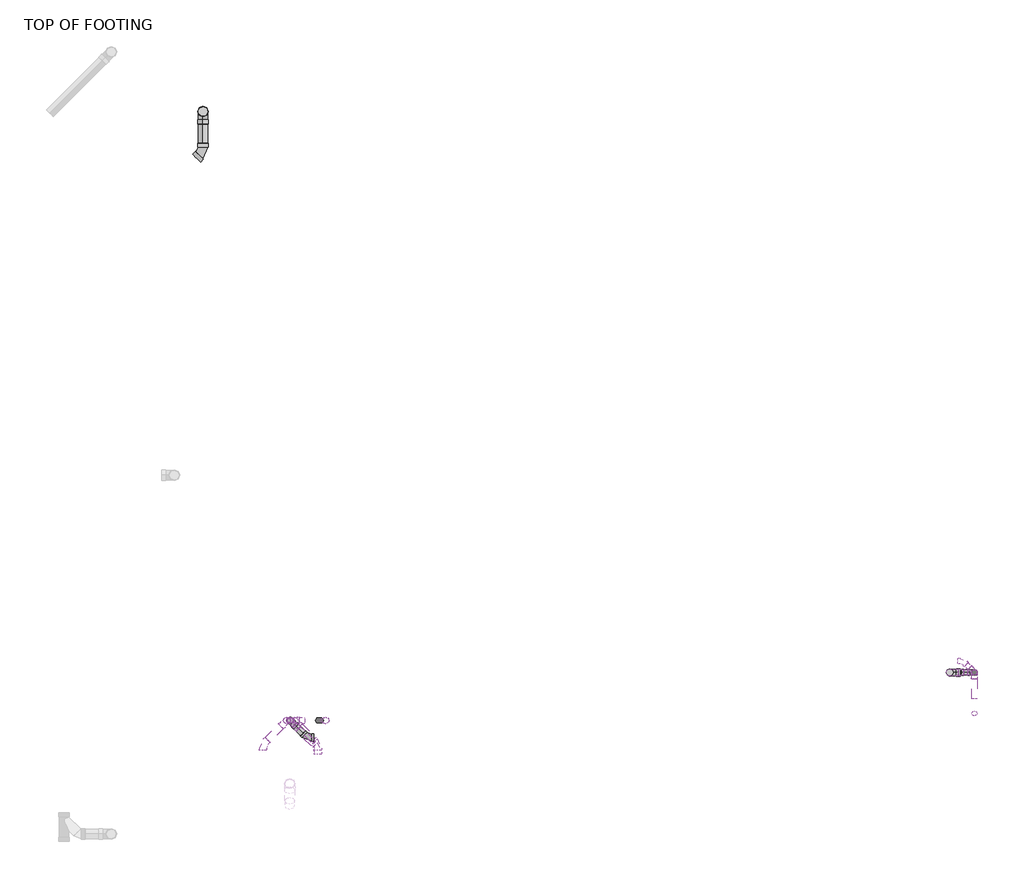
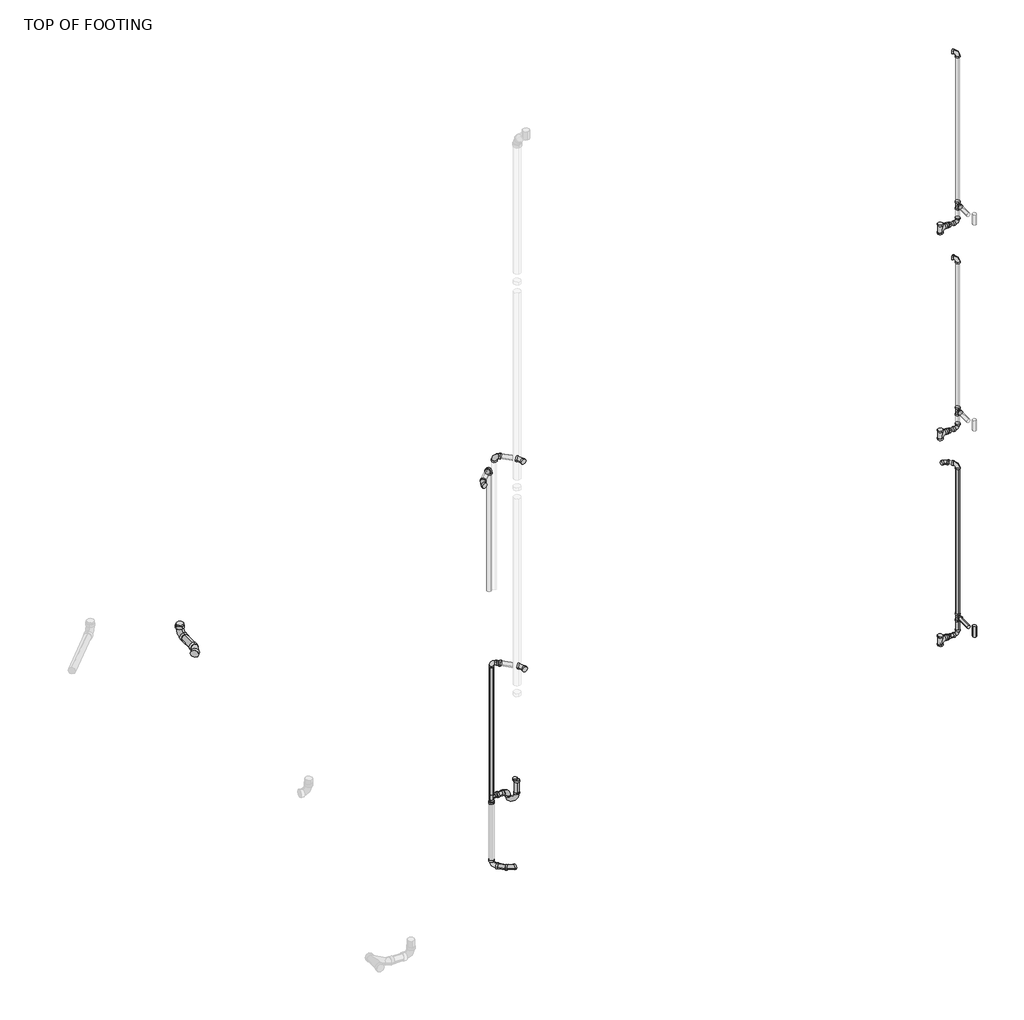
# One storey, part 8 of 8: 32 pipe fittings, 26 pipe segments.
"""IFC4 building model written with IfcOpenShell, lengths in millimetres."""

from ifc_helpers import new_model, si_unit, point, frame, frame_2d, origin, place, context, project, spatial, circle_curve, trimmed, segment, composite_curve, outline, extrude, transform, mapped, element, save
from components import bend_pvc_sch_40_dwv_standard_738aab8b, bend_pvc_sch_40_dwv_standard_9377f51f, bend_pvc_sch_40_dwv_standard_e59a9f3a, bend_pvc_sch_40_dwv_standard_e6a60135, bend_pvc_sch_40_dwv_standard_f2f5988a, bend_pvc_sch_40_dwv_standard_ffbada00, bend_pvc_sch_40_dwv_standard_1eaeee76, bend_pvc_sch_40_dwv_standard_49f8c181, bend_pvc_sch_40_dwv_standard_f64d1520, bend_pvc_sch_40_dwv_standard_e19a0162, bend_pvc_sch_40_dwv_standard_6bc66ede, pipe_tee_copper_k_25e69e3c, reducer_pvc_sch_40_dwv_standard_b23fa098, reducer_pvc_sch_40_dwv_standard_f288b410, reducer_pvc_sch_40_dwv_standard_b2b0afcc, reducer_pvc_sch_40_dwv_standard_230e9924, reducer_pvc_sch_40_dwv_standard_e5aaf6e1, standard_73d07651, tee_sanitary_pvc_sch_40_dwv_standard_ad422280, tee_sanitary_pvc_sch_40_dwv_standard_7b7ecc20

model = new_model("IFC4")

# Units and contexts
model_context = context("Model", 3, world=origin())
ifc_project = project(units=[si_unit("LENGTHUNIT", "METRE", prefix="MILLI")], contexts=[model_context])

# Site, building, storey
site = spatial("IfcSite", under=ifc_project)
building = spatial("IfcBuilding", under=site)
storey = spatial("IfcBuildingStorey", under=building, Name="TOP OF FOOTING", Elevation=-762.0)

# Pipe fittings
placement = place(None, origin())
bend_pvc_sch_40_dwv_standard_shape = bend_pvc_sch_40_dwv_standard_738aab8b(model_context)
element("IfcPipeFitting", 1, ObjectType="Bend - PVC - Sch 40 - DWV : Standard", at=placement, inside=storey, context=model_context, shape_type="MappedRepresentation", body=[
    mapped(bend_pvc_sch_40_dwv_standard_shape, transform((23291.1209875, 8911.2671909, 337.3617935), x_axis=(1.0, 0.0, 0.0), y_axis=(0.0, 0.0, 1.0), z_axis=(0.0, -1.0, 0.0))),
])
element("IfcPipeFitting", 2, ObjectType="Bend - PVC - Sch 40 - DWV : Standard", at=placement, inside=storey, context=model_context, shape_type="MappedRepresentation", body=[
    mapped(bend_pvc_sch_40_dwv_standard_shape, transform((23291.1209875, 8911.2671909, 3182.1617935), x_axis=(1.0, 0.0, 0.0), y_axis=(0.0, 0.0, 1.0), z_axis=(0.0, -1.0, 0.0))),
])
element("IfcPipeFitting", 3, ObjectType="Bend - PVC - Sch 40 - DWV : Standard", at=placement, inside=storey, context=model_context, shape_type="MappedRepresentation", body=[
    mapped(bend_pvc_sch_40_dwv_standard_shape, transform((23291.1209875, 8911.2671909, 6026.9617935), x_axis=(1.0, 0.0, 0.0), y_axis=(0.0, 0.0, 1.0), z_axis=(0.0, -1.0, 0.0))),
])
bend_pvc_sch_40_dwv_standard_2_shape = bend_pvc_sch_40_dwv_standard_9377f51f(model_context)
element("IfcPipeFitting", 4, ObjectType="Bend - PVC - Sch 40 - DWV : Standard", at=placement, inside=storey, context=model_context, shape_type="MappedRepresentation", body=[
    mapped(bend_pvc_sch_40_dwv_standard_2_shape, transform((23291.1337024, 8911.5076329, 2682.6265087), x_axis=(0.0, 0.0, 1.0), y_axis=(-0.7070876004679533, 0.7071259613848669, 0.0), z_axis=(-0.7071259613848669, -0.7070876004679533, 0.0))),
])
element("IfcPipeFitting", 5, ObjectType="Bend - PVC - Sch 40 - DWV : Standard", at=placement, inside=storey, context=model_context, shape_type="MappedRepresentation", body=[
    mapped(bend_pvc_sch_40_dwv_standard_2_shape, transform((23291.1337024, 8911.5076329, 5527.4265087), x_axis=(0.0, 0.0, 1.0), y_axis=(-0.7070876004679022, 0.7071259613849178, 0.0), z_axis=(-0.7071259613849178, -0.7070876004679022, 0.0))),
])
element("IfcPipeFitting", 6, ObjectType="Bend - PVC - Sch 40 - DWV : Standard", at=placement, inside=storey, context=model_context, shape_type="MappedRepresentation", body=[
    mapped(bend_pvc_sch_40_dwv_standard_2_shape, transform((23291.1302501, 8911.5069362, 8371.9619664), x_axis=(0.0, 0.0, 1.0), y_axis=(-0.7070876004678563, 0.7071259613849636, 0.0), z_axis=(-0.7071259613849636, -0.7070876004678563, 0.0))),
])
bend_pvc_sch_40_dwv_standard_3_shape = bend_pvc_sch_40_dwv_standard_e59a9f3a(model_context)
element("IfcPipeFitting", 7, ObjectType="Bend - PVC - Sch 40 - DWV : Standard", at=placement, inside=storey, context=model_context, shape_type="MappedRepresentation", body=[
    mapped(bend_pvc_sch_40_dwv_standard_3_shape, transform((23184.9534568, 9017.693639, 2683.7325529), x_axis=(-0.7070684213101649, 0.7071067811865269, 0.007365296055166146), y_axis=(-0.7070684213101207, -0.7071067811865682, 0.007365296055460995), z_axis=(0.01041610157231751, 0.0, 0.9999457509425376))),
])
bend_pvc_sch_40_dwv_standard_4_shape = bend_pvc_sch_40_dwv_standard_e6a60135(model_context)
element("IfcPipeFitting", 8, ObjectType="Bend - PVC - Sch 40 - DWV : Standard", at=placement, inside=storey, context=model_context, shape_type="MappedRepresentation", body=[
    mapped(bend_pvc_sch_40_dwv_standard_4_shape, transform((16130.1963273, 14121.7978596, -306.1909479), x_axis=(0.0, 0.0, -1.0), y_axis=(6.691731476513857e-07, -0.9999999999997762, 0.0), z_axis=(-0.9999999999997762, -6.691731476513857e-07, 0.0))),
])
bend_pvc_sch_40_dwv_standard_5_shape = bend_pvc_sch_40_dwv_standard_f2f5988a(model_context)
element("IfcPipeFitting", 9, ObjectType="Bend - PVC - Sch 40 - DWV : Standard", at=placement, inside=storey, context=model_context, shape_type="MappedRepresentation", body=[
    mapped(bend_pvc_sch_40_dwv_standard_5_shape, transform((17099.5992238, 8305.5591924, -367.6734551), x_axis=(0.7070684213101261, -0.7071067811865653, -0.007365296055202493), y_axis=(0.7070681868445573, 0.7071067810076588, -0.007387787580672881), z_axis=(0.010432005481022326, 1.5904774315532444e-05, 0.9999455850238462))),
])
element("IfcPipeFitting", 10, ObjectType="Bend - PVC - Sch 40 - DWV : Standard", at=placement, inside=storey, context=model_context, shape_type="MappedRepresentation", body=[
    mapped(bend_pvc_sch_40_dwv_standard_5_shape, transform((17196.3084875, 8244.3974343, 5283.195709), x_axis=(0.0, 0.9999999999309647, -1.1750347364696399e-05), y_axis=(-0.9999999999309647, 1.3807066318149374e-10, 1.175034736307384e-05), z_axis=(1.1750347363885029e-05, 1.175034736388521e-05, 0.9999999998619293))),
])
element("IfcPipeFitting", 11, ObjectType="Bend - PVC - Sch 40 - DWV : Standard", at=placement, inside=storey, context=model_context, shape_type="MappedRepresentation", body=[
    mapped(bend_pvc_sch_40_dwv_standard_5_shape, transform((17196.3084875, 8208.8468745, 2438.395709), x_axis=(0.0, 0.9999999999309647, -1.1750347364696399e-05), y_axis=(-0.9999999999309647, 1.3807066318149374e-10, 1.175034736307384e-05), z_axis=(1.1750347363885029e-05, 1.175034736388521e-05, 0.9999999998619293))),
])
bend_pvc_sch_40_dwv_standard_6_shape = bend_pvc_sch_40_dwv_standard_ffbada00(model_context)
element("IfcPipeFitting", 12, ObjectType="Bend - PVC - Sch 40 - DWV : Standard", at=placement, inside=storey, context=model_context, shape_type="MappedRepresentation", body=[
    mapped(bend_pvc_sch_40_dwv_standard_6_shape, transform((16130.1964889, 13747.0770701, -310.0942894), x_axis=(0.7070163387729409, 0.7070163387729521, 0.015993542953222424), y_axis=(-0.7070919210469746, 0.7071205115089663, -0.0012638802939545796), z_axis=(-0.012202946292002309, -0.010415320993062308, 0.9998712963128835))),
])
bend_pvc_sch_40_dwv_standard_7_shape = bend_pvc_sch_40_dwv_standard_1eaeee76(model_context)
element("IfcPipeFitting", 13, ObjectType="Bend - PVC - Sch 40 - DWV : Standard", at=placement, inside=storey, context=model_context, shape_type="MappedRepresentation", body=[
    mapped(bend_pvc_sch_40_dwv_standard_7_shape, transform((16975.4348028, 8465.2711191, 5283.195709), x_axis=(0.0, 0.0, 1.0), y_axis=(0.7071067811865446, -0.7071067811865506, 0.0), z_axis=(0.7071067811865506, 0.7071067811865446, 0.0))),
])
bend_pvc_sch_40_dwv_standard_8_shape = bend_pvc_sch_40_dwv_standard_49f8c181(model_context)
element("IfcPipeFitting", 14, ObjectType="Bend - PVC - Sch 40 - DWV : Standard", at=placement, inside=storey, context=model_context, shape_type="MappedRepresentation", body=[
    mapped(bend_pvc_sch_40_dwv_standard_8_shape, transform((16909.2449931, 8465.2082981, 5130.7947608), x_axis=(0.0, 0.0, 1.0), y_axis=(0.7071067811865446, 0.7071067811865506, 0.0), z_axis=(-0.7071067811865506, 0.7071067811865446, 0.0))),
])
bend_pvc_sch_40_dwv_standard_9_shape = bend_pvc_sch_40_dwv_standard_f64d1520(model_context)
element("IfcPipeFitting", 15, ObjectType="Bend - PVC - Sch 40 - DWV : Standard", at=placement, inside=storey, context=model_context, shape_type="MappedRepresentation", body=[
    mapped(bend_pvc_sch_40_dwv_standard_9_shape, transform((16688.3084875, 8244.2717925, 5130.7957104), x_axis=(0.0, 0.9999999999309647, -1.1750347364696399e-05), y_axis=(-0.9999999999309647, 1.3807066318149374e-10, 1.175034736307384e-05), z_axis=(1.1750347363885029e-05, 1.175034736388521e-05, 0.9999999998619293))),
])
bend_pvc_sch_40_dwv_standard_10_shape = bend_pvc_sch_40_dwv_standard_e19a0162(model_context)
element("IfcPipeFitting", 16, ObjectType="Bend - PVC - Sch 40 - DWV : Standard", at=placement, inside=storey, context=model_context, shape_type="MappedRepresentation", body=[
    mapped(bend_pvc_sch_40_dwv_standard_10_shape, transform((16939.1055566, 8466.0615667, -366.001646), x_axis=(-0.7070684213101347, 0.7071067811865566, 0.007365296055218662), y_axis=(0.005190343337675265, -0.0052257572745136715, 0.9999728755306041), z_axis=(0.7071260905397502, 0.7070874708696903, 2.484097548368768e-05))),
])
bend_pvc_sch_40_dwv_standard_11_shape = bend_pvc_sch_40_dwv_standard_6bc66ede(model_context)
element("IfcPipeFitting", 17, ObjectType="Bend - PVC - Sch 40 - DWV : Standard", at=placement, inside=storey, context=model_context, shape_type="MappedRepresentation", body=[
    mapped(bend_pvc_sch_40_dwv_standard_11_shape, transform((16939.1211543, 8466.0459682, 2438.395709), x_axis=(-0.7070876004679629, 0.7071259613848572, 0.0), y_axis=(-9.37308750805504e-06, -9.372579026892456e-06, -0.99999999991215), z_axis=(-0.7071259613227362, -0.7070876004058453, 1.3255187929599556e-05))),
])
pipe_tee_copper_k_shape = pipe_tee_copper_k_25e69e3c(model_context)
element("IfcPipeFitting", 18, ObjectType="Pipe Tee : Copper- K", at=placement, inside=storey, context=model_context, shape_type="MappedRepresentation", body=[
    mapped(pipe_tee_copper_k_shape, transform((16939.1055593, 8466.0313821, 578.6618091), x_axis=(0.0, -3.166751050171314e-05, 0.9999999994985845), y_axis=(-0.9999999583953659, -0.00028846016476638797, -9.13481530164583e-09), z_axis=(0.00028846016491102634, -0.9999999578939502, -3.1667509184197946e-05))),
])
reducer_pvc_sch_40_dwv_standard_shape = reducer_pvc_sch_40_dwv_standard_b23fa098(model_context)
element("IfcPipeFitting", 19, ObjectType="Reducer - PVC - Sch 40 - DWV : Standard", at=placement, inside=storey, context=model_context, shape_type="MappedRepresentation", body=[
    mapped(reducer_pvc_sch_40_dwv_standard_shape, transform((17018.2350647, 8386.9277657, 2438.395709), x_axis=(-0.7070876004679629, 0.7071259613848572, 0.0), y_axis=(-0.7071259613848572, -0.7070876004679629, 0.0), z_axis=(0.0, 0.0, 1.0))),
])
reducer_pvc_sch_40_dwv_standard_2_shape = reducer_pvc_sch_40_dwv_standard_f288b410(model_context)
element("IfcPipeFitting", 20, ObjectType="Reducer - PVC - Sch 40 - DWV : Standard", at=placement, inside=storey, context=model_context, shape_type="MappedRepresentation", body=[
    mapped(reducer_pvc_sch_40_dwv_standard_2_shape, transform((23140.3211875, 8911.2671909, 337.3617935), x_axis=(1.0, 0.0, 0.0), y_axis=(0.0, 1.0, 0.0), z_axis=(0.0, 0.0, 1.0))),
])
element("IfcPipeFitting", 21, ObjectType="Reducer - PVC - Sch 40 - DWV : Standard", at=placement, inside=storey, context=model_context, shape_type="MappedRepresentation", body=[
    mapped(reducer_pvc_sch_40_dwv_standard_2_shape, transform((23140.3211875, 8911.2671909, 3182.1617935), x_axis=(1.0, 0.0, 0.0), y_axis=(0.0, 1.0, 0.0), z_axis=(0.0, 0.0, 1.0))),
])
element("IfcPipeFitting", 22, ObjectType="Reducer - PVC - Sch 40 - DWV : Standard", at=placement, inside=storey, context=model_context, shape_type="MappedRepresentation", body=[
    mapped(reducer_pvc_sch_40_dwv_standard_2_shape, transform((23140.3211875, 8911.2671909, 6026.9617935), x_axis=(1.0, 0.0, 0.0), y_axis=(0.0, 1.0, 0.0), z_axis=(0.0, 0.0, 1.0))),
])
reducer_pvc_sch_40_dwv_standard_3_shape = reducer_pvc_sch_40_dwv_standard_b2b0afcc(model_context)
element("IfcPipeFitting", 23, ObjectType="Reducer - PVC - Sch 40 - DWV : Standard", at=placement, inside=storey, context=model_context, shape_type="MappedRepresentation", body=[
    mapped(reducer_pvc_sch_40_dwv_standard_3_shape, transform((16975.6180577, 8466.0419145, 578.6618052), x_axis=(0.9999999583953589, 0.0002884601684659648, -1.076908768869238e-07), y_axis=(-0.0002884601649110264, 0.9999999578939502, 3.166750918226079e-05), z_axis=(1.1682568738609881e-07, -3.1667476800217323e-05, 0.9999999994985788))),
])
reducer_pvc_sch_40_dwv_standard_4_shape = reducer_pvc_sch_40_dwv_standard_230e9924(model_context)
element("IfcPipeFitting", 24, ObjectType="Reducer - PVC - Sch 40 - DWV : Standard", at=placement, inside=storey, context=model_context, shape_type="MappedRepresentation", body=[
    mapped(reducer_pvc_sch_40_dwv_standard_4_shape, transform((16939.1055593, 8466.0325383, 542.1493091), x_axis=(0.0, 3.166751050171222e-05, -0.9999999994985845), y_axis=(-0.9999999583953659, -0.000288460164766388, -9.134815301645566e-09), z_axis=(-0.0002884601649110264, 0.9999999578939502, 3.1667509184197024e-05))),
])
reducer_pvc_sch_40_dwv_standard_5_shape = reducer_pvc_sch_40_dwv_standard_e5aaf6e1(model_context)
element("IfcPipeFitting", 25, ObjectType="Reducer - PVC - Sch 40 - DWV : Standard", at=placement, inside=storey, context=model_context, shape_type="MappedRepresentation", body=[
    mapped(reducer_pvc_sch_40_dwv_standard_5_shape, transform((17267.5084875, 8466.0704341, 675.8010858), x_axis=(0.0, 0.0, 1.0), y_axis=(1.0, 0.0, 0.0), z_axis=(0.0, 1.0, 0.0))),
])
standard_shape = standard_73d07651(model_context)
element("IfcPipeFitting", 26, ObjectType="GES P TRAP PVC Sch 40 - DWV : Standard", at=placement, inside=storey, context=model_context, shape_type="MappedRepresentation", body=[
    mapped(standard_shape, transform((17267.5084875, 8466.0704341, 578.6617944), x_axis=(0.0, 0.0, -1.0), y_axis=(-1.0, 0.0, 0.0), z_axis=(0.0, 1.0, 0.0))),
])
tee_sanitary_pvc_sch_40_dwv_standard_shape = tee_sanitary_pvc_sch_40_dwv_standard_ad422280(model_context)
element("IfcPipeFitting", 27, ObjectType="Tee Sanitary - PVC - Sch 40 - DWV : Standard", at=placement, inside=storey, context=model_context, shape_type="MappedRepresentation", body=[
    mapped(tee_sanitary_pvc_sch_40_dwv_standard_shape, transform((23291.1209875, 8911.5054942, 6267.6170389), x_axis=(0.0, 0.0, 1.0), y_axis=(0.0, 1.0, 0.0), z_axis=(-1.0, 0.0, 0.0))),
])
element("IfcPipeFitting", 28, ObjectType="Tee Sanitary - PVC - Sch 40 - DWV : Standard", at=placement, inside=storey, context=model_context, shape_type="MappedRepresentation", body=[
    mapped(tee_sanitary_pvc_sch_40_dwv_standard_shape, transform((23291.1209875, 8911.5054942, 3422.8170389), x_axis=(0.0, 0.0, 1.0), y_axis=(0.0, 1.0, 0.0), z_axis=(-1.0, 0.0, 0.0))),
])
element("IfcPipeFitting", 29, ObjectType="Tee Sanitary - PVC - Sch 40 - DWV : Standard", at=placement, inside=storey, context=model_context, shape_type="MappedRepresentation", body=[
    mapped(tee_sanitary_pvc_sch_40_dwv_standard_shape, transform((23291.1209875, 8911.5054942, 578.0170389), x_axis=(0.0, 0.0, 1.0), y_axis=(0.0, 1.0, 0.0), z_axis=(-1.0, 0.0, 0.0))),
])
tee_sanitary_pvc_sch_40_dwv_standard_2_shape = tee_sanitary_pvc_sch_40_dwv_standard_7b7ecc20(model_context)
element("IfcPipeFitting", 30, ObjectType="Tee Sanitary - PVC - Sch 40 - DWV : Standard", at=placement, inside=storey, context=model_context, shape_type="MappedRepresentation", body=[
    mapped(tee_sanitary_pvc_sch_40_dwv_standard_2_shape, transform((23062.5209875, 8911.2671909, 337.3617935), x_axis=(0.0, 0.0, 1.0), y_axis=(-1.0, 0.0, 0.0), z_axis=(0.0, -1.0, 0.0))),
])
element("IfcPipeFitting", 31, ObjectType="Tee Sanitary - PVC - Sch 40 - DWV : Standard", at=placement, inside=storey, context=model_context, shape_type="MappedRepresentation", body=[
    mapped(tee_sanitary_pvc_sch_40_dwv_standard_2_shape, transform((23062.5209875, 8911.2671909, 3182.1617935), x_axis=(0.0, 0.0, 1.0), y_axis=(-1.0, 0.0, 0.0), z_axis=(0.0, -1.0, 0.0))),
])
element("IfcPipeFitting", 32, ObjectType="Tee Sanitary - PVC - Sch 40 - DWV : Standard", at=placement, inside=storey, context=model_context, shape_type="MappedRepresentation", body=[
    mapped(tee_sanitary_pvc_sch_40_dwv_standard_2_shape, transform((23062.5209875, 8911.2671909, 6026.9617935), x_axis=(0.0, 0.0, 1.0), y_axis=(-1.0, 0.0, 0.0), z_axis=(0.0, -1.0, 0.0))),
])

# Pipe segments
element("IfcPipeSegment", 33, ObjectType="PVC - SAN/STORM", at=placement, inside=storey, context=model_context, shape_type="SweptSolid", body=[
    extrude(outline(composite_curve([segment(trimmed(circle_curve(frame_2d((6268.2617935, 23291.1209875)), 24.13), [point((6268.2617935, 23315.2509875))], [point((6292.3917935, 23291.1209875))], False, "CARTESIAN"), True, "CONTINUOUS"), segment(trimmed(circle_curve(frame_2d((6268.2617935, 23291.1209875)), 24.13), [point((6292.3917935, 23291.1209875))], [point((6268.2617935, 23266.9909875))], False, "CARTESIAN"), True, "CONTINUOUS"), segment(trimmed(circle_curve(frame_2d((6268.2617935, 23291.1209875)), 24.13), [point((6268.2617935, 23266.9909875))], [point((6244.1317935, 23291.1209875))], False, "CARTESIAN"), True, "CONTINUOUS"), segment(trimmed(circle_curve(frame_2d((6268.2617935, 23291.1209875)), 24.13), [point((6244.1317935, 23291.1209875))], [point((6268.2617935, 23315.2509875))], False, "CARTESIAN"), True, "CONTINUOUS")], self_intersect=False)), frame((0.0, 8665.4385881, 0.0), z_axis=(0.0, 1.0, 0.0), x_axis=(0.0, 0.0, 1.0)), (0.0, 0.0, 1.0), 184.1704641),
])
element("IfcPipeSegment", 34, ObjectType="PVC - SAN/STORM", at=placement, inside=storey, context=model_context, shape_type="SweptSolid", body=[
    extrude(outline(composite_curve([segment(trimmed(circle_curve(frame_2d((23291.1209875, 8530.5137881)), 24.13), [point((23266.9909875, 8530.5137881))], [point((23291.1209875, 8554.6437881))], False, "CARTESIAN"), True, "CONTINUOUS"), segment(trimmed(circle_curve(frame_2d((23291.1209875, 8530.5137881)), 24.13), [point((23291.1209875, 8554.6437881))], [point((23315.2509875, 8530.5137881))], False, "CARTESIAN"), True, "CONTINUOUS"), segment(trimmed(circle_curve(frame_2d((23291.1209875, 8530.5137881)), 24.13), [point((23315.2509875, 8530.5137881))], [point((23291.1209875, 8506.3837881))], False, "CARTESIAN"), True, "CONTINUOUS"), segment(trimmed(circle_curve(frame_2d((23291.1209875, 8530.5137881)), 24.13), [point((23291.1209875, 8506.3837881))], [point((23266.9909875, 8530.5137881))], False, "CARTESIAN"), True, "CONTINUOUS")], self_intersect=False)), frame((0.0, 0.0, 6223.7990935), z_axis=(0.0, 0.0, 1.0), x_axis=(1.0, 0.0, 0.0)), (0.0, 0.0, 1.0), 141.6019923),
])
element("IfcPipeSegment", 35, ObjectType="PVC - SAN/STORM", at=placement, inside=storey, context=model_context, shape_type="SweptSolid", body=[
    extrude(outline(composite_curve([segment(trimmed(circle_curve(frame_2d((0.0, 24.13)), 24.13), [point((24.13, 24.13))], [point((0.0, 0.0))], False, "CARTESIAN"), True, "CONTINUOUS"), segment(trimmed(circle_curve(frame_2d((0.0, 24.13)), 24.13), [point((0.0, 0.0))], [point((-24.13, 24.13))], False, "CARTESIAN"), True, "CONTINUOUS"), segment(trimmed(circle_curve(frame_2d((0.0, 24.13)), 24.13), [point((-24.13, 24.13))], [point((0.0, 48.26))], False, "CARTESIAN"), True, "CONTINUOUS"), segment(trimmed(circle_curve(frame_2d((0.0, 24.13)), 24.13), [point((0.0, 48.26))], [point((24.13, 24.13))], False, "CARTESIAN"), True, "CONTINUOUS")], self_intersect=False)), frame((23291.1209875, 8887.1372411, 6088.9108016), z_axis=(0.0, 0.0020392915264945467, 0.9999979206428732), x_axis=(1.0, 0.0, 0.0)), (0.0, 0.0, 1.0), 116.8558884),
])
element("IfcPipeSegment", 36, ObjectType="PVC - SAN/STORM", at=placement, inside=storey, context=model_context, shape_type="SweptSolid", body=[
    extrude(outline(composite_curve([segment(trimmed(circle_curve(frame_2d((0.0, 24.13)), 24.13), [point((-24.13, 24.13))], [point((0.0, 48.26))], False, "CARTESIAN"), True, "CONTINUOUS"), segment(trimmed(circle_curve(frame_2d((0.0, 24.13)), 24.13), [point((0.0, 48.26))], [point((24.13, 24.13))], False, "CARTESIAN"), True, "CONTINUOUS"), segment(trimmed(circle_curve(frame_2d((0.0, 24.13)), 24.13), [point((24.13, 24.13))], [point((0.0, 0.0))], False, "CARTESIAN"), True, "CONTINUOUS"), segment(trimmed(circle_curve(frame_2d((0.0, 24.13)), 24.13), [point((0.0, 0.0))], [point((-24.13, 24.13))], False, "CARTESIAN"), True, "CONTINUOUS")], self_intersect=False)), frame((23291.1209875, 8887.3754942, 6313.8112177), z_axis=(4.640019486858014e-06, 7.223967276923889e-07, 0.9999999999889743), x_axis=(0.9999999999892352, -3.350208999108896e-12, -4.6400194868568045e-06)), (0.0, 0.0, 1.0), 1996.2509661),
])
element("IfcPipeSegment", 37, ObjectType="PVC - SAN/STORM", at=placement, inside=storey, context=model_context, shape_type="SweptSolid", body=[
    extrude(outline(composite_curve([segment(trimmed(circle_curve(frame_2d((3423.4617935, 23291.1209875)), 24.13), [point((3423.4617935, 23315.2509875))], [point((3447.5917935, 23291.1209875))], False, "CARTESIAN"), True, "CONTINUOUS"), segment(trimmed(circle_curve(frame_2d((3423.4617935, 23291.1209875)), 24.13), [point((3447.5917935, 23291.1209875))], [point((3423.4617935, 23266.9909875))], False, "CARTESIAN"), True, "CONTINUOUS"), segment(trimmed(circle_curve(frame_2d((3423.4617935, 23291.1209875)), 24.13), [point((3423.4617935, 23266.9909875))], [point((3399.3317935, 23291.1209875))], False, "CARTESIAN"), True, "CONTINUOUS"), segment(trimmed(circle_curve(frame_2d((3423.4617935, 23291.1209875)), 24.13), [point((3399.3317935, 23291.1209875))], [point((3423.4617935, 23315.2509875))], False, "CARTESIAN"), True, "CONTINUOUS")], self_intersect=False)), frame((0.0, 8665.4385881, 0.0), z_axis=(0.0, 1.0, 0.0), x_axis=(0.0, 0.0, 1.0)), (0.0, 0.0, 1.0), 184.1704641),
])
element("IfcPipeSegment", 38, ObjectType="PVC - SAN/STORM", at=placement, inside=storey, context=model_context, shape_type="SweptSolid", body=[
    extrude(outline(composite_curve([segment(trimmed(circle_curve(frame_2d((23291.1209875, 8530.5137881)), 24.13), [point((23266.9909875, 8530.5137881))], [point((23291.1209875, 8554.6437881))], False, "CARTESIAN"), True, "CONTINUOUS"), segment(trimmed(circle_curve(frame_2d((23291.1209875, 8530.5137881)), 24.13), [point((23291.1209875, 8554.6437881))], [point((23315.2509875, 8530.5137881))], False, "CARTESIAN"), True, "CONTINUOUS"), segment(trimmed(circle_curve(frame_2d((23291.1209875, 8530.5137881)), 24.13), [point((23315.2509875, 8530.5137881))], [point((23291.1209875, 8506.3837881))], False, "CARTESIAN"), True, "CONTINUOUS"), segment(trimmed(circle_curve(frame_2d((23291.1209875, 8530.5137881)), 24.13), [point((23291.1209875, 8506.3837881))], [point((23266.9909875, 8530.5137881))], False, "CARTESIAN"), True, "CONTINUOUS")], self_intersect=False)), frame((0.0, 0.0, 3378.9990935), z_axis=(0.0, 0.0, 1.0), x_axis=(1.0, 0.0, 0.0)), (0.0, 0.0, 1.0), 141.6019923),
])
element("IfcPipeSegment", 39, ObjectType="PVC - SAN/STORM", at=placement, inside=storey, context=model_context, shape_type="SweptSolid", body=[
    extrude(outline(composite_curve([segment(trimmed(circle_curve(frame_2d((0.0, 24.13)), 24.13), [point((24.13, 24.13))], [point((0.0, 0.0))], False, "CARTESIAN"), True, "CONTINUOUS"), segment(trimmed(circle_curve(frame_2d((0.0, 24.13)), 24.13), [point((0.0, 0.0))], [point((-24.13, 24.13))], False, "CARTESIAN"), True, "CONTINUOUS"), segment(trimmed(circle_curve(frame_2d((0.0, 24.13)), 24.13), [point((-24.13, 24.13))], [point((0.0, 48.26))], False, "CARTESIAN"), True, "CONTINUOUS"), segment(trimmed(circle_curve(frame_2d((0.0, 24.13)), 24.13), [point((0.0, 48.26))], [point((24.13, 24.13))], False, "CARTESIAN"), True, "CONTINUOUS")], self_intersect=False)), frame((23291.1209875, 8887.1372411, 3244.1108016), z_axis=(0.0, 0.002039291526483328, 0.9999979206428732), x_axis=(1.0, 0.0, 0.0)), (0.0, 0.0, 1.0), 116.8558884),
])
element("IfcPipeSegment", 40, ObjectType="PVC - SAN/STORM", at=placement, inside=storey, context=model_context, shape_type="SweptSolid", body=[
    extrude(outline(composite_curve([segment(trimmed(circle_curve(frame_2d((0.0, 24.13)), 24.13), [point((-24.13, 24.13))], [point((0.0, 48.26))], False, "CARTESIAN"), True, "CONTINUOUS"), segment(trimmed(circle_curve(frame_2d((0.0, 24.13)), 24.13), [point((0.0, 48.26))], [point((24.13, 24.13))], False, "CARTESIAN"), True, "CONTINUOUS"), segment(trimmed(circle_curve(frame_2d((0.0, 24.13)), 24.13), [point((24.13, 24.13))], [point((0.0, 0.0))], False, "CARTESIAN"), True, "CONTINUOUS"), segment(trimmed(circle_curve(frame_2d((0.0, 24.13)), 24.13), [point((0.0, 0.0))], [point((-24.13, 24.13))], False, "CARTESIAN"), True, "CONTINUOUS")], self_intersect=False)), frame((23291.1209875, 8887.3754942, 3469.0112262), z_axis=(6.368583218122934e-06, 1.0712312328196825e-06, 0.9999999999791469), x_axis=(0.9999999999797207, -6.8212102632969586e-12, -6.368583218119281e-06)), (0.0, 0.0, 1.0), 1996.5155084),
])
element("IfcPipeSegment", 41, ObjectType="PVC - SAN/STORM", at=placement, inside=storey, context=model_context, shape_type="SweptSolid", body=[
    extrude(outline(composite_curve([segment(trimmed(circle_curve(frame_2d((578.6617935, 23291.1209875)), 24.13), [point((578.6617935, 23315.2509875))], [point((602.7917935, 23291.1209875))], False, "CARTESIAN"), True, "CONTINUOUS"), segment(trimmed(circle_curve(frame_2d((578.6617935, 23291.1209875)), 24.13), [point((602.7917935, 23291.1209875))], [point((578.6617935, 23266.9909875))], False, "CARTESIAN"), True, "CONTINUOUS"), segment(trimmed(circle_curve(frame_2d((578.6617935, 23291.1209875)), 24.13), [point((578.6617935, 23266.9909875))], [point((554.5317935, 23291.1209875))], False, "CARTESIAN"), True, "CONTINUOUS"), segment(trimmed(circle_curve(frame_2d((578.6617935, 23291.1209875)), 24.13), [point((554.5317935, 23291.1209875))], [point((578.6617935, 23315.2509875))], False, "CARTESIAN"), True, "CONTINUOUS")], self_intersect=False)), frame((0.0, 8665.4385881, 0.0), z_axis=(0.0, 1.0, 0.0), x_axis=(0.0, 0.0, 1.0)), (0.0, 0.0, 1.0), 184.1704641),
])
element("IfcPipeSegment", 42, ObjectType="PVC - SAN/STORM", at=placement, inside=storey, context=model_context, shape_type="SweptSolid", body=[
    extrude(outline(composite_curve([segment(trimmed(circle_curve(frame_2d((23291.1209875, 8530.5137881)), 24.13), [point((23266.9909875, 8530.5137881))], [point((23291.1209875, 8554.6437881))], False, "CARTESIAN"), True, "CONTINUOUS"), segment(trimmed(circle_curve(frame_2d((23291.1209875, 8530.5137881)), 24.13), [point((23291.1209875, 8554.6437881))], [point((23315.2509875, 8530.5137881))], False, "CARTESIAN"), True, "CONTINUOUS"), segment(trimmed(circle_curve(frame_2d((23291.1209875, 8530.5137881)), 24.13), [point((23315.2509875, 8530.5137881))], [point((23291.1209875, 8506.3837881))], False, "CARTESIAN"), True, "CONTINUOUS"), segment(trimmed(circle_curve(frame_2d((23291.1209875, 8530.5137881)), 24.13), [point((23291.1209875, 8506.3837881))], [point((23266.9909875, 8530.5137881))], False, "CARTESIAN"), True, "CONTINUOUS")], self_intersect=False)), frame((0.0, 0.0, 534.1990935), z_axis=(0.0, 0.0, 1.0), x_axis=(1.0, 0.0, 0.0)), (0.0, 0.0, 1.0), 141.6019923),
])
element("IfcPipeSegment", 43, ObjectType="PVC - SAN/STORM", at=placement, inside=storey, context=model_context, shape_type="SweptSolid", body=[
    extrude(outline(composite_curve([segment(trimmed(circle_curve(frame_2d((0.0, 24.13)), 24.13), [point((24.13, 24.13))], [point((0.0, 0.0))], False, "CARTESIAN"), True, "CONTINUOUS"), segment(trimmed(circle_curve(frame_2d((0.0, 24.13)), 24.13), [point((0.0, 0.0))], [point((-24.13, 24.13))], False, "CARTESIAN"), True, "CONTINUOUS"), segment(trimmed(circle_curve(frame_2d((0.0, 24.13)), 24.13), [point((-24.13, 24.13))], [point((0.0, 48.26))], False, "CARTESIAN"), True, "CONTINUOUS"), segment(trimmed(circle_curve(frame_2d((0.0, 24.13)), 24.13), [point((0.0, 48.26))], [point((24.13, 24.13))], False, "CARTESIAN"), True, "CONTINUOUS")], self_intersect=False)), frame((23291.1209875, 8887.1372411, 399.3108016), z_axis=(0.0, 0.002039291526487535, 0.9999979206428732), x_axis=(1.0, 0.0, 0.0)), (0.0, 0.0, 1.0), 116.8558884),
])
element("IfcPipeSegment", 44, ObjectType="PVC - SAN/STORM", at=placement, inside=storey, context=model_context, shape_type="SweptSolid", body=[
    extrude(outline(composite_curve([segment(trimmed(circle_curve(frame_2d((0.0, 24.13)), 24.13), [point((-24.13, 24.13))], [point((0.0, 48.26))], False, "CARTESIAN"), True, "CONTINUOUS"), segment(trimmed(circle_curve(frame_2d((0.0, 24.13)), 24.13), [point((0.0, 48.26))], [point((24.13, 24.13))], False, "CARTESIAN"), True, "CONTINUOUS"), segment(trimmed(circle_curve(frame_2d((0.0, 24.13)), 24.13), [point((24.13, 24.13))], [point((0.0, 0.0))], False, "CARTESIAN"), True, "CONTINUOUS"), segment(trimmed(circle_curve(frame_2d((0.0, 24.13)), 24.13), [point((0.0, 0.0))], [point((-24.13, 24.13))], False, "CARTESIAN"), True, "CONTINUOUS")], self_intersect=False)), frame((23291.1209875, 8887.3754942, 624.2112262), z_axis=(6.368583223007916e-06, 1.0712312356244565e-06, 0.9999999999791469), x_axis=(0.9999999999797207, -6.8212102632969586e-12, -6.368583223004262e-06)), (0.0, 0.0, 1.0), 1996.5155084),
])
element("IfcPipeSegment", 45, ObjectType="PVC - SAN/STORM", at=placement, inside=storey, context=model_context, shape_type="SweptSolid", body=[
    extrude(outline(composite_curve([segment(trimmed(circle_curve(frame_2d((0.0, 24.13)), 24.13), [point((24.1293456, 24.3077101))], [point((0.1777101, 0.0006544))], False, "CARTESIAN"), True, "CONTINUOUS"), segment(trimmed(circle_curve(frame_2d((0.0, 24.13)), 24.13), [point((0.1777101, 0.0006544))], [point((-24.1293456, 23.9522899))], False, "CARTESIAN"), True, "CONTINUOUS"), segment(trimmed(circle_curve(frame_2d((0.0, 24.13)), 24.13), [point((-24.1293456, 23.9522899))], [point((-0.1777101, 48.2593456))], False, "CARTESIAN"), True, "CONTINUOUS"), segment(trimmed(circle_curve(frame_2d((0.0, 24.13)), 24.13), [point((-0.1777101, 48.2593456))], [point((24.1293456, 24.3077101))], False, "CARTESIAN"), True, "CONTINUOUS")], self_intersect=False)), frame((23247.3663086, 8955.0260743, 2707.2111102), z_axis=(-0.7070684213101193, 0.7071067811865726, 0.007365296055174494), x_axis=(0.7071451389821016, 0.7070300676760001, 0.007364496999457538)), (0.0, 0.0, 1.0), 42.2450899),
])
element("IfcPipeSegment", 46, ObjectType="PVC - SAN/STORM", at=placement, inside=storey, context=model_context, shape_type="SweptSolid", body=[
    extrude(outline(composite_curve([segment(trimmed(circle_curve(frame_2d((0.0, -30.1625)), 30.1625), [point((-30.1625, -30.1625))], [point((0.0, 0.0))], False, "CARTESIAN"), True, "CONTINUOUS"), segment(trimmed(circle_curve(frame_2d((0.0, -30.1625)), 30.1625), [point((0.0, 0.0))], [point((30.1625, -30.1625))], False, "CARTESIAN"), True, "CONTINUOUS"), segment(trimmed(circle_curve(frame_2d((0.0, -30.1625)), 30.1625), [point((30.1625, -30.1625))], [point((0.0, -60.325))], False, "CARTESIAN"), True, "CONTINUOUS"), segment(trimmed(circle_curve(frame_2d((0.0, -30.1625)), 30.1625), [point((0.0, -60.325))], [point((-30.1625, -30.1625))], False, "CARTESIAN"), True, "CONTINUOUS")], self_intersect=False)), frame((17025.6052557, 8466.0563338, 548.4992944), z_axis=(0.9999999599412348, 0.00028305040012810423, 0.0), x_axis=(0.00028305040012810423, -0.9999999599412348, 0.0)), (0.0, 0.0, 1.0), 49.8157338),
])
element("IfcPipeSegment", 47, ObjectType="PVC - SAN/STORM", at=placement, inside=storey, context=model_context, shape_type="SweptSolid", body=[
    extrude(outline(composite_curve([segment(trimmed(circle_curve(frame_2d((17267.5084875, 8466.0704341)), 30.1625), [point((17237.3459875, 8466.0704341))], [point((17267.5084875, 8496.2329341))], False, "CARTESIAN"), True, "CONTINUOUS"), segment(trimmed(circle_curve(frame_2d((17267.5084875, 8466.0704341)), 30.1625), [point((17267.5084875, 8496.2329341))], [point((17297.6709875, 8466.0704341))], False, "CARTESIAN"), True, "CONTINUOUS"), segment(trimmed(circle_curve(frame_2d((17267.5084875, 8466.0704341)), 30.1625), [point((17297.6709875, 8466.0704341))], [point((17267.5084875, 8435.9079341))], False, "CARTESIAN"), True, "CONTINUOUS"), segment(trimmed(circle_curve(frame_2d((17267.5084875, 8466.0704341)), 30.1625), [point((17267.5084875, 8435.9079341))], [point((17237.3459875, 8466.0704341))], False, "CARTESIAN"), True, "CONTINUOUS")], self_intersect=False)), frame((0.0, 0.0, 531.0367944), z_axis=(0.0, 0.0, 1.0), x_axis=(1.0, 0.0, 0.0)), (0.0, 0.0, 1.0), 144.7642914),
])
element("IfcPipeSegment", 48, ObjectType="PVC - SAN/STORM", at=placement, inside=storey, context=model_context, shape_type="SweptSolid", body=[
    extrude(outline(composite_curve([segment(trimmed(circle_curve(frame_2d((0.0, -30.1625)), 30.1625), [point((-30.161682, -30.3846377))], [point((-0.2221377, -0.000818))], False, "CARTESIAN"), True, "CONTINUOUS"), segment(trimmed(circle_curve(frame_2d((0.0, -30.1625)), 30.1625), [point((-0.2221377, -0.000818))], [point((30.161682, -29.9403623))], False, "CARTESIAN"), True, "CONTINUOUS"), segment(trimmed(circle_curve(frame_2d((0.0, -30.1625)), 30.1625), [point((30.161682, -29.9403623))], [point((0.2221377, -60.324182))], False, "CARTESIAN"), True, "CONTINUOUS"), segment(trimmed(circle_curve(frame_2d((0.0, -30.1625)), 30.1625), [point((0.2221377, -60.324182))], [point((-30.161682, -30.3846377))], False, "CARTESIAN"), True, "CONTINUOUS")], self_intersect=False)), frame((17059.1902635, 8346.2845036, -397.4133923), z_axis=(-0.7070684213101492, 0.7071067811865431, 0.007365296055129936), x_axis=(0.7071451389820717, 0.7070300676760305, 0.007364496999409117)), (0.0, 0.0, 1.0), 92.0344345),
])
element("IfcPipeSegment", 49, ObjectType="PVC - SAN/STORM", at=placement, inside=storey, context=model_context, shape_type="SweptSolid", body=[
    extrude(outline(composite_curve([segment(trimmed(circle_curve(frame_2d((0.0, -44.4500001)), 44.45), [point((-44.45, -44.4500004))], [point((-3e-07, 0.0))], False, "CARTESIAN"), True, "CONTINUOUS"), segment(trimmed(circle_curve(frame_2d((0.0, -44.4500001)), 44.45), [point((-3e-07, 0.0))], [point((44.45, -44.4499998))], False, "CARTESIAN"), True, "CONTINUOUS"), segment(trimmed(circle_curve(frame_2d((0.0, -44.4500001)), 44.45), [point((44.45, -44.4499998))], [point((3e-07, -88.9))], False, "CARTESIAN"), True, "CONTINUOUS"), segment(trimmed(circle_curve(frame_2d((0.0, -44.4500001)), 44.45), [point((3e-07, -88.9))], [point((-44.45, -44.4500004))], False, "CARTESIAN"), True, "CONTINUOUS")], self_intersect=False)), frame((16130.1965228, 13830.0855876, -353.6820289), z_axis=(-6.691368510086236e-07, 0.9999457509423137, 0.010416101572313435), x_axis=(0.9999999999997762, 6.691005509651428e-07, 6.969797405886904e-09)), (0.0, 0.0, 1.0), 176.2909188),
])
element("IfcPipeSegment", 50, ObjectType="PVC - SAN/STORM", at=placement, inside=storey, context=model_context, shape_type="SweptSolid", body=[
    extrude(outline(composite_curve([segment(trimmed(circle_curve(frame_2d((0.0, -44.4499999)), 44.45), [point((-30.1311637, -11.7710239))], [point((32.6789761, -14.3188363))], False, "CARTESIAN"), True, "CONTINUOUS"), segment(trimmed(circle_curve(frame_2d((0.0, -44.4499999)), 44.45), [point((32.6789761, -14.3188363))], [point((30.1311637, -77.128976))], False, "CARTESIAN"), True, "CONTINUOUS"), segment(trimmed(circle_curve(frame_2d((0.0, -44.4499999)), 44.45), [point((30.1311637, -77.128976))], [point((-32.678976, -74.5811636))], False, "CARTESIAN"), True, "CONTINUOUS"), segment(trimmed(circle_curve(frame_2d((0.0, -44.4499999)), 44.45), [point((-32.678976, -74.5811636))], [point((-30.1311637, -11.7710239))], False, "CARTESIAN"), True, "CONTINUOUS")], self_intersect=False)), frame((16130.1963273, 14166.2478268, -190.3446884), z_axis=(0.0013161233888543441, 0.0012135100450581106, 0.9999983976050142), x_axis=(0.9999991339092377, -1.5971303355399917e-06, -0.0013161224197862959)), (0.0, 0.0, 1.0), 15.665773),
])
element("IfcPipeSegment", 51, ObjectType="PVC - SAN/STORM", at=placement, inside=storey, context=model_context, shape_type="SweptSolid", body=[
    extrude(outline(composite_curve([segment(trimmed(circle_curve(frame_2d((8911.2671909, 337.3617935)), 24.13), [point((8887.1371909, 337.3617935))], [point((8911.2671909, 361.4917935))], False, "CARTESIAN"), True, "CONTINUOUS"), segment(trimmed(circle_curve(frame_2d((8911.2671909, 337.3617935)), 24.13), [point((8911.2671909, 361.4917935))], [point((8935.3971909, 337.3617935))], False, "CARTESIAN"), True, "CONTINUOUS"), segment(trimmed(circle_curve(frame_2d((8911.2671909, 337.3617935)), 24.13), [point((8935.3971909, 337.3617935))], [point((8911.2671909, 313.2317935))], False, "CARTESIAN"), True, "CONTINUOUS"), segment(trimmed(circle_curve(frame_2d((8911.2671909, 337.3617935)), 24.13), [point((8911.2671909, 313.2317935))], [point((8887.1371909, 337.3617935))], False, "CARTESIAN"), True, "CONTINUOUS")], self_intersect=False)), frame((23190.3083875, 0.0, 0.0), z_axis=(1.0, 0.0, 0.0), x_axis=(0.0, 1.0, 0.0)), (0.0, 0.0, 1.0), 38.9128),
])
element("IfcPipeSegment", 52, ObjectType="PVC - SAN/STORM", at=placement, inside=storey, context=model_context, shape_type="SweptSolid", body=[
    extrude(outline(composite_curve([segment(trimmed(circle_curve(frame_2d((8911.2671909, 3182.1617935)), 24.13), [point((8887.1371909, 3182.1617935))], [point((8911.2671909, 3206.2917935))], False, "CARTESIAN"), True, "CONTINUOUS"), segment(trimmed(circle_curve(frame_2d((8911.2671909, 3182.1617935)), 24.13), [point((8911.2671909, 3206.2917935))], [point((8935.3971909, 3182.1617935))], False, "CARTESIAN"), True, "CONTINUOUS"), segment(trimmed(circle_curve(frame_2d((8911.2671909, 3182.1617935)), 24.13), [point((8935.3971909, 3182.1617935))], [point((8911.2671909, 3158.0317935))], False, "CARTESIAN"), True, "CONTINUOUS"), segment(trimmed(circle_curve(frame_2d((8911.2671909, 3182.1617935)), 24.13), [point((8911.2671909, 3158.0317935))], [point((8887.1371909, 3182.1617935))], False, "CARTESIAN"), True, "CONTINUOUS")], self_intersect=False)), frame((23190.3083875, 0.0, 0.0), z_axis=(1.0, 0.0, 0.0), x_axis=(0.0, 1.0, 0.0)), (0.0, 0.0, 1.0), 38.9128),
])
element("IfcPipeSegment", 53, ObjectType="PVC - SAN/STORM", at=placement, inside=storey, context=model_context, shape_type="SweptSolid", body=[
    extrude(outline(composite_curve([segment(trimmed(circle_curve(frame_2d((8911.2671909, 6026.9617935)), 24.13), [point((8887.1371909, 6026.9617935))], [point((8911.2671909, 6051.0917935))], False, "CARTESIAN"), True, "CONTINUOUS"), segment(trimmed(circle_curve(frame_2d((8911.2671909, 6026.9617935)), 24.13), [point((8911.2671909, 6051.0917935))], [point((8935.3971909, 6026.9617935))], False, "CARTESIAN"), True, "CONTINUOUS"), segment(trimmed(circle_curve(frame_2d((8911.2671909, 6026.9617935)), 24.13), [point((8935.3971909, 6026.9617935))], [point((8911.2671909, 6002.8317935))], False, "CARTESIAN"), True, "CONTINUOUS"), segment(trimmed(circle_curve(frame_2d((8911.2671909, 6026.9617935)), 24.13), [point((8911.2671909, 6002.8317935))], [point((8887.1371909, 6026.9617935))], False, "CARTESIAN"), True, "CONTINUOUS")], self_intersect=False)), frame((23190.3083875, 0.0, 0.0), z_axis=(1.0, 0.0, 0.0), x_axis=(0.0, 1.0, 0.0)), (0.0, 0.0, 1.0), 38.9128),
])
element("IfcPipeSegment", 54, ObjectType="PVC - SAN/STORM", at=placement, inside=storey, context=model_context, shape_type="SweptSolid", body=[
    extrude(outline(composite_curve([segment(trimmed(circle_curve(frame_2d((0.0, -30.1625)), 30.1625), [point((-30.1625, -30.1625))], [point((0.0, 0.0))], False, "CARTESIAN"), True, "CONTINUOUS"), segment(trimmed(circle_curve(frame_2d((0.0, -30.1625)), 30.1625), [point((0.0, 0.0))], [point((30.1625, -30.1625))], False, "CARTESIAN"), True, "CONTINUOUS"), segment(trimmed(circle_curve(frame_2d((0.0, -30.1625)), 30.1625), [point((30.1625, -30.1625))], [point((0.0, -60.325))], False, "CARTESIAN"), True, "CONTINUOUS"), segment(trimmed(circle_curve(frame_2d((0.0, -30.1625)), 30.1625), [point((0.0, -60.325))], [point((-30.1625, -30.1625))], False, "CARTESIAN"), True, "CONTINUOUS")], self_intersect=False)), frame((17155.8973349, 8284.8085869, 5253.033209), z_axis=(-0.7071067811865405, 0.7071067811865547, 0.0), x_axis=(0.7071067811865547, 0.7071067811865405, 0.0)), (0.0, 0.0, 1.0), 177.4123605),
])
element("IfcPipeSegment", 55, ObjectType="PVC - SAN/STORM", at=placement, inside=storey, context=model_context, shape_type="SweptSolid", body=[
    extrude(outline(composite_curve([segment(trimmed(circle_curve(frame_2d((16909.2449931, 8465.2082981)), 30.1625), [point((16879.0824931, 8465.2082981))], [point((16909.2449931, 8495.3707981))], False, "CARTESIAN"), True, "CONTINUOUS"), segment(trimmed(circle_curve(frame_2d((16909.2449931, 8465.2082981)), 30.1625), [point((16909.2449931, 8495.3707981))], [point((16939.4074931, 8465.2082981))], False, "CARTESIAN"), True, "CONTINUOUS"), segment(trimmed(circle_curve(frame_2d((16909.2449931, 8465.2082981)), 30.1625), [point((16939.4074931, 8465.2082981))], [point((16909.2449931, 8435.0457981))], False, "CARTESIAN"), True, "CONTINUOUS"), segment(trimmed(circle_curve(frame_2d((16909.2449931, 8465.2082981)), 30.1625), [point((16909.2449931, 8435.0457981))], [point((16879.0824931, 8465.2082981))], False, "CARTESIAN"), True, "CONTINUOUS")], self_intersect=False)), frame((0.0, 0.0, 3441.2981058), z_axis=(0.0, 0.0, 1.0), x_axis=(1.0, 0.0, 0.0)), (0.0, 0.0, 1.0), 1611.696455),
])
element("IfcPipeSegment", 56, ObjectType="PVC - SAN/STORM", at=placement, inside=storey, context=model_context, shape_type="SweptSolid", body=[
    extrude(outline(composite_curve([segment(trimmed(circle_curve(frame_2d((0.0, -30.1625)), 30.1625), [point((-30.1624999, -30.1625))], [point((0.0, 0.0))], False, "CARTESIAN"), True, "CONTINUOUS"), segment(trimmed(circle_curve(frame_2d((0.0, -30.1625)), 30.1625), [point((0.0, 0.0))], [point((30.1625, -30.1625))], False, "CARTESIAN"), True, "CONTINUOUS"), segment(trimmed(circle_curve(frame_2d((0.0, -30.1625)), 30.1625), [point((30.1625, -30.1625))], [point((0.0, -60.325))], False, "CARTESIAN"), True, "CONTINUOUS"), segment(trimmed(circle_curve(frame_2d((0.0, -30.1625)), 30.1625), [point((0.0, -60.325))], [point((-30.1624999, -30.1625))], False, "CARTESIAN"), True, "CONTINUOUS")], self_intersect=False)), frame((16728.71964, 8284.6829451, 5100.6322608), z_axis=(0.707106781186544, 0.7071067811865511, 0.0), x_axis=(0.7071067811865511, -0.707106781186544, 0.0)), (0.0, 0.0, 1.0), 177.5012027),
])
element("IfcPipeSegment", 57, ObjectType="PVC - SAN/STORM", at=placement, inside=storey, context=model_context, shape_type="SweptSolid", body=[
    extrude(outline(composite_curve([segment(trimmed(circle_curve(frame_2d((0.0, -30.1625)), 30.1625), [point((-30.1625, -30.1625))], [point((0.0, 0.0))], False, "CARTESIAN"), True, "CONTINUOUS"), segment(trimmed(circle_curve(frame_2d((0.0, -30.1625)), 30.1625), [point((0.0, 0.0))], [point((30.1625, -30.1625))], False, "CARTESIAN"), True, "CONTINUOUS"), segment(trimmed(circle_curve(frame_2d((0.0, -30.1625)), 30.1625), [point((30.1625, -30.1625))], [point((0.0, -60.325))], False, "CARTESIAN"), True, "CONTINUOUS"), segment(trimmed(circle_curve(frame_2d((0.0, -30.1625)), 30.1625), [point((0.0, -60.325))], [point((-30.1625, -30.1625))], False, "CARTESIAN"), True, "CONTINUOUS")], self_intersect=False)), frame((17155.8973349, 8249.258027, 2408.233209), z_axis=(-0.7070876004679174, 0.7071259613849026, 0.0), x_axis=(0.7071259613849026, 0.7070876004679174, 0.0)), (0.0, 0.0, 1.0), 194.6891307),
])
element("IfcPipeSegment", 58, ObjectType="PVC - SAN/STORM", at=placement, inside=storey, context=model_context, shape_type="SweptSolid", body=[
    extrude(outline(composite_curve([segment(trimmed(circle_curve(frame_2d((0.0, -24.13)), 24.13), [point((-24.13, -24.13))], [point((0.0, 0.0))], False, "CARTESIAN"), True, "CONTINUOUS"), segment(trimmed(circle_curve(frame_2d((0.0, -24.13)), 24.13), [point((0.0, 0.0))], [point((24.13, -24.13))], False, "CARTESIAN"), True, "CONTINUOUS"), segment(trimmed(circle_curve(frame_2d((0.0, -24.13)), 24.13), [point((24.13, -24.13))], [point((0.0, -48.26))], False, "CARTESIAN"), True, "CONTINUOUS"), segment(trimmed(circle_curve(frame_2d((0.0, -24.13)), 24.13), [point((0.0, -48.26))], [point((-24.13, -24.13))], False, "CARTESIAN"), True, "CONTINUOUS")], self_intersect=False)), frame((16939.1055593, 8441.9002258, 615.1745164), z_axis=(8.543981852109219e-06, 8.589209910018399e-06, 0.9999999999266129), x_axis=(-0.9999999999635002, 7.33848537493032e-11, 8.543981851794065e-06)), (0.0, 0.0, 1.0), 1761.3216),
])

save(model, "model.ifc")
